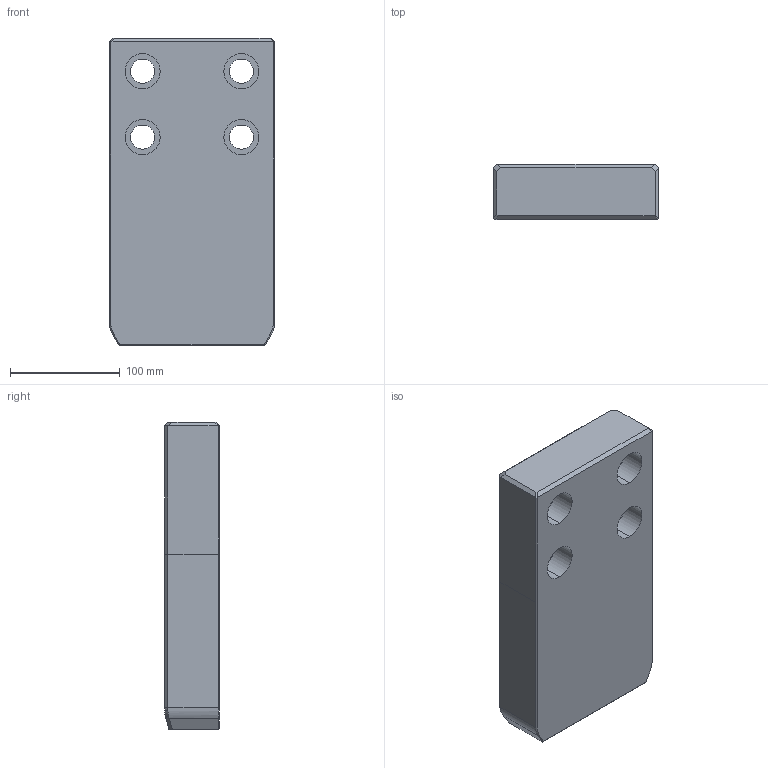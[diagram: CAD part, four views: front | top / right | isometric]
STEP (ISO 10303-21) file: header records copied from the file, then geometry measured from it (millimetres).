
FILE_DESCRIPTION((''),'2;1');
FILE_NAME('','2010-08-30T14:09:11+09:00',('misumi'),(''),'M/STEP i/f 1R2-14','CADmeister v5.1','');
FILE_SCHEMA(('AUTOMOTIVE_DESIGN'));
Length unit declared in the file: millimetre
Products named in the file (1): OGPZ150-280
Bounding box: 150 x 50 x 280 mm (x, y, z)
Volume: 1967631.9 mm3; surface area: 138086.5 mm2
Topology: 1 solids, 1 shells, 66 faces, 156 edges, 97 vertices
Faces by surface type: plane 37, cylinder 21, bspline 6, cone 2
Entity records: 2262 total; most frequent: CARTESIAN_POINT 662, ORIENTED_EDGE 312, DIRECTION 300, EDGE_CURVE 156, AXIS2_PLACEMENT_3D 101, LINE 98, VECTOR 98, VERTEX_POINT 97
